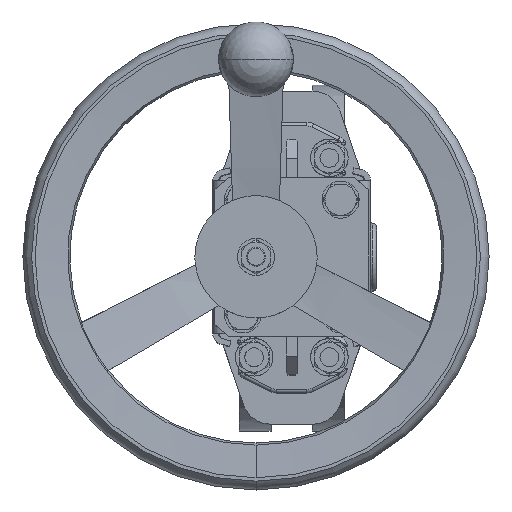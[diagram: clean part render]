
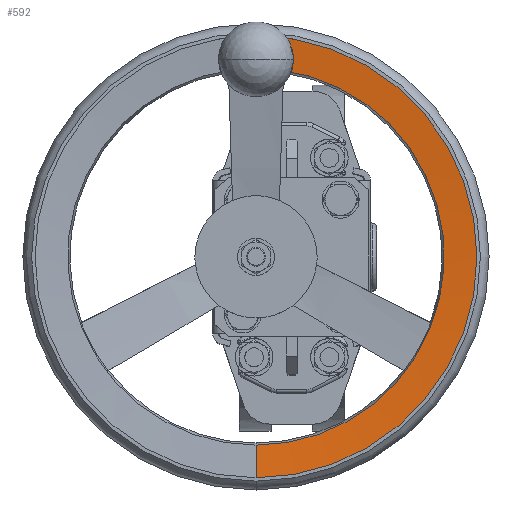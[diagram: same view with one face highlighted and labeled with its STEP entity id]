
A CAD part, top view. The second image highlights one B-rep face of the part: STEP entity #592.
In plain terms, the highlighted conical face has half-angle 85 degrees and reference radius 117.5 mm.
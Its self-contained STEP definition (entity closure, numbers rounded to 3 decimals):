
#592=ADVANCED_FACE('',(#2034),#2035,.F.);
#2034=FACE_OUTER_BOUND('',#4602,.T.);
#2035=CONICAL_SURFACE('',#4603,117.5,1.484);
#4602=EDGE_LOOP('',(#13448,#13449,#13450,#13451,#13452,#13453,#13454));
#4603=AXIS2_PLACEMENT_3D('',#13455,#13456,#13457);
#13448=ORIENTED_EDGE('',*,*,#21995,.F.);
#13449=ORIENTED_EDGE('',*,*,#21996,.F.);
#13450=ORIENTED_EDGE('',*,*,#21997,.F.);
#13451=ORIENTED_EDGE('',*,*,#21998,.F.);
#13452=ORIENTED_EDGE('',*,*,#21999,.T.);
#13453=ORIENTED_EDGE('',*,*,#22000,.T.);
#13454=ORIENTED_EDGE('',*,*,#21451,.T.);
#13455=CARTESIAN_POINT('',(-19.,0.,419.519));
#13456=DIRECTION('',(0.,0.,1.));
#13457=DIRECTION('',(0.,-1.,0.));
#21451=EDGE_CURVE('',#24865,#24842,#24866,.T.);
#21995=EDGE_CURVE('',#25941,#24842,#25942,.T.);
#21996=EDGE_CURVE('',#25943,#25941,#25944,.T.);
#21997=EDGE_CURVE('',#25945,#25943,#25946,.T.);
#21998=EDGE_CURVE('',#25947,#25945,#25948,.T.);
#21999=EDGE_CURVE('',#25947,#25949,#25950,.T.);
#22000=EDGE_CURVE('',#25949,#24865,#25951,.T.);
#24842=VERTEX_POINT('',#29897);
#24865=VERTEX_POINT('',#29944);
#24866=CIRCLE('',#29945,100.133);
#25941=VERTEX_POINT('',#31719);
#25942=LINE('',#31720,#31721);
#25943=VERTEX_POINT('',#31722);
#25944=CIRCLE('',#31723,117.5);
#25945=VERTEX_POINT('',#31724);
#25946=LINE('',#31725,#31726);
#25947=VERTEX_POINT('',#31727);
#25948=CIRCLE('',#31728,117.278);
#25949=VERTEX_POINT('',#31729);
#25950=B_SPLINE_CURVE_WITH_KNOTS('',3,(#31730,#31731,#31732,#31733,#31734,#31735,#31736),.UNSPECIFIED.,.F.,.F.,(4,3,4),(0.013,0.023,0.025),.UNSPECIFIED.);
#25951=B_SPLINE_CURVE_WITH_KNOTS('',3,(#31737,#31738,#31739,#31740,#31741,#31742,#31743,#31744),.UNSPECIFIED.,.F.,.F.,(4,2,2,4),(0.003,0.004,0.006,0.008),.UNSPECIFIED.);
#29897=CARTESIAN_POINT('',(-19.,-100.133,418.));
#29944=CARTESIAN_POINT('',(-7.774,99.502,418.));
#29945=AXIS2_PLACEMENT_3D('',#39728,#39729,#39730);
#31719=CARTESIAN_POINT('',(-19.,-117.5,419.519));
#31720=CARTESIAN_POINT('',(-19.,-117.5,419.519));
#31721=VECTOR('',#40738,1.);
#31722=CARTESIAN_POINT('',(-19.,117.5,419.519));
#31723=AXIS2_PLACEMENT_3D('',#40739,#40740,#40741);
#31724=CARTESIAN_POINT('',(-19.,117.278,419.5));
#31725=CARTESIAN_POINT('',(-19.,117.5,419.519));
#31726=VECTOR('',#40742,1.);
#31727=CARTESIAN_POINT('',(-6.5,116.61,419.5));
#31728=AXIS2_PLACEMENT_3D('',#40743,#40744,#40745);
#31729=CARTESIAN_POINT('',(-6.5,105.,418.491));
#31730=CARTESIAN_POINT('',(-6.5,116.61,419.5));
#31731=CARTESIAN_POINT('',(-6.5,113.264,419.209));
#31732=CARTESIAN_POINT('',(-6.5,109.919,418.918));
#31733=CARTESIAN_POINT('',(-6.5,106.573,418.627));
#31734=CARTESIAN_POINT('',(-6.5,106.049,418.582));
#31735=CARTESIAN_POINT('',(-6.5,105.524,418.536));
#31736=CARTESIAN_POINT('',(-6.5,105.,418.491));
#31737=CARTESIAN_POINT('',(-6.5,105.,418.491));
#31738=CARTESIAN_POINT('',(-6.5,104.527,418.45));
#31739=CARTESIAN_POINT('',(-6.527,104.054,418.408));
#31740=CARTESIAN_POINT('',(-6.636,103.103,418.324));
#31741=CARTESIAN_POINT('',(-6.717,102.634,418.283));
#31742=CARTESIAN_POINT('',(-7.037,101.253,418.16));
#31743=CARTESIAN_POINT('',(-7.353,100.362,418.079));
#31744=CARTESIAN_POINT('',(-7.774,99.502,418.));
#39728=CARTESIAN_POINT('',(-19.,0.,418.));
#39729=DIRECTION('',(0.,0.,-1.));
#39730=DIRECTION('',(0.,1.,0.));
#40738=DIRECTION('',(0.,0.996,-0.087));
#40739=CARTESIAN_POINT('',(-19.,0.,419.519));
#40740=DIRECTION('',(0.,0.,-1.));
#40741=DIRECTION('',(0.,1.,0.));
#40742=DIRECTION('',(0.,0.996,0.087));
#40743=CARTESIAN_POINT('',(-19.,0.,419.5));
#40744=DIRECTION('',(0.,0.,1.));
#40745=DIRECTION('',(1.,0.,0.));
